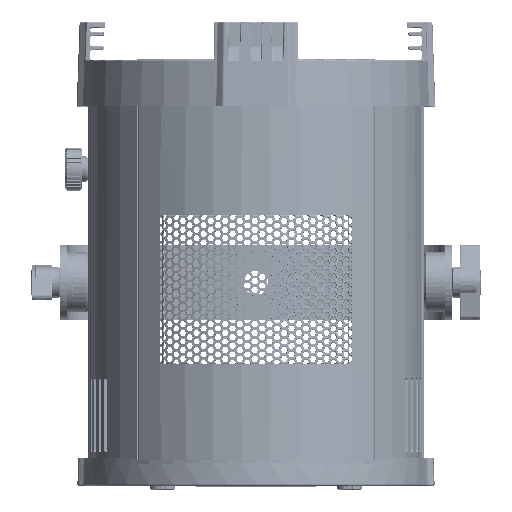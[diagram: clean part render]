
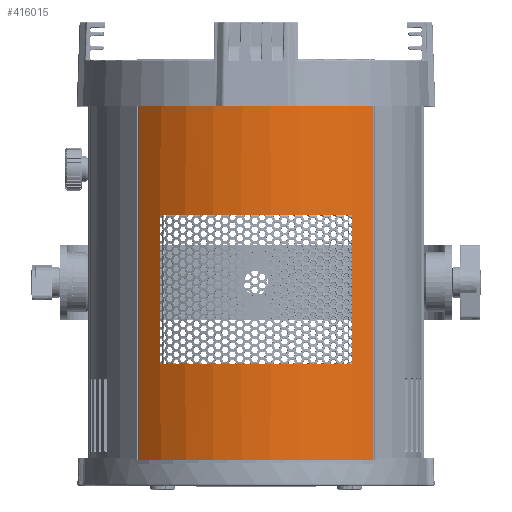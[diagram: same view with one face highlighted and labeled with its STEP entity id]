
A CAD part, top view. The second image highlights one B-rep face of the part: STEP entity #416015.
In plain terms, the highlighted cylindrical face has radius 90 mm (diameter 180 mm), a partial arc.
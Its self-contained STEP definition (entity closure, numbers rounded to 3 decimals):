
#10571 = DIRECTION ( 'NONE',  ( 0., 0., 1. ) ) ;
#10682 = DIRECTION ( 'NONE',  ( 0., -1., 0. ) ) ;
#11488 = AXIS2_PLACEMENT_3D ( 'NONE', #30434, #195487, #201860 ) ;
#13536 = DIRECTION ( 'NONE',  ( 0., -1., 0. ) ) ;
#20085 = VERTEX_POINT ( 'NONE', #281297 ) ;
#22964 = EDGE_CURVE ( 'NONE', #188798, #377891, #233063, .T. ) ;
#25962 = ORIENTED_EDGE ( 'NONE', *, *, #166094, .F. ) ;
#29279 = LINE ( 'NONE', #357342, #235605 ) ;
#30434 = CARTESIAN_POINT ( 'NONE',  ( 0., -65., 0. ) ) ;
#32751 = LINE ( 'NONE', #390976, #71839 ) ;
#44836 = ORIENTED_EDGE ( 'NONE', *, *, #241233, .T. ) ;
#45666 = CARTESIAN_POINT ( 'NONE',  ( -51.5, 66., -73.809 ) ) ;
#51361 = CARTESIAN_POINT ( 'NONE',  ( 0., 125., 0. ) ) ;
#58982 = EDGE_LOOP ( 'NONE', ( #236058, #44836, #25962, #118328 ) ) ;
#62298 = EDGE_CURVE ( 'NONE', #188798, #372526, #140049, .T. ) ;
#70005 = VECTOR ( 'NONE', #13536, 1000. ) ;
#71839 = VECTOR ( 'NONE', #10682, 1000. ) ;
#98160 = DIRECTION ( 'NONE',  ( 0., 1., 0. ) ) ;
#109630 = AXIS2_PLACEMENT_3D ( 'NONE', #147578, #214152, #286886 ) ;
#110128 = DIRECTION ( 'NONE',  ( 0., -1., 0. ) ) ;
#118328 = ORIENTED_EDGE ( 'NONE', *, *, #387715, .T. ) ;
#126133 = CARTESIAN_POINT ( 'NONE',  ( -62.697, -40., -64.569 ) ) ;
#129543 = ORIENTED_EDGE ( 'NONE', *, *, #413078, .F. ) ;
#137134 = CARTESIAN_POINT ( 'NONE',  ( 62.697, -65., -64.569 ) ) ;
#139156 = VERTEX_POINT ( 'NONE', #224008 ) ;
#140049 = LINE ( 'NONE', #45666, #70005 ) ;
#140748 = ORIENTED_EDGE ( 'NONE', *, *, #62298, .T. ) ;
#147578 = CARTESIAN_POINT ( 'NONE',  ( 0., 66., 0. ) ) ;
#159409 = EDGE_CURVE ( 'NONE', #372526, #20085, #323035, .T. ) ;
#161969 = VERTEX_POINT ( 'NONE', #137134 ) ;
#166094 = EDGE_CURVE ( 'NONE', #264021, #139156, #301476, .T. ) ;
#173479 = CARTESIAN_POINT ( 'NONE',  ( 0., -40., 0. ) ) ;
#188798 = VERTEX_POINT ( 'NONE', #384812 ) ;
#189320 = CIRCLE ( 'NONE', #11488, 90. ) ;
#194338 = DIRECTION ( 'NONE',  ( 0., -1., 0. ) ) ;
#194495 = VERTEX_POINT ( 'NONE', #317755 ) ;
#195487 = DIRECTION ( 'NONE',  ( 0., -1., 0. ) ) ;
#201860 = DIRECTION ( 'NONE',  ( 0., 0., 1. ) ) ;
#205742 = AXIS2_PLACEMENT_3D ( 'NONE', #51361, #285103, #418054 ) ;
#206767 = DIRECTION ( 'NONE',  ( 0., 0., -1. ) ) ;
#214152 = DIRECTION ( 'NONE',  ( 0., -1., 0. ) ) ;
#224008 = CARTESIAN_POINT ( 'NONE',  ( -62.697, 125., -64.569 ) ) ;
#228204 = AXIS2_PLACEMENT_3D ( 'NONE', #264707, #110128, #206767 ) ;
#233063 = CIRCLE ( 'NONE', #109630, 90. ) ;
#233671 = FACE_OUTER_BOUND ( 'NONE', #58982, .T. ) ;
#235605 = VECTOR ( 'NONE', #194338, 1000. ) ;
#236058 = ORIENTED_EDGE ( 'NONE', *, *, #338849, .F. ) ;
#237872 = CYLINDRICAL_SURFACE ( 'NONE', #412789, 90. ) ;
#241233 = EDGE_CURVE ( 'NONE', #194495, #139156, #420007, .T. ) ;
#264021 = VERTEX_POINT ( 'NONE', #353034 ) ;
#264707 = CARTESIAN_POINT ( 'NONE',  ( 0., -14., 0. ) ) ;
#281297 = CARTESIAN_POINT ( 'NONE',  ( 51.5, -14., -73.809 ) ) ;
#285103 = DIRECTION ( 'NONE',  ( 0., 1., 0. ) ) ;
#286886 = DIRECTION ( 'NONE',  ( 0., 0., -1. ) ) ;
#291884 = ORIENTED_EDGE ( 'NONE', *, *, #159409, .T. ) ;
#300090 = FACE_BOUND ( 'NONE', #414334, .T. ) ;
#301476 = CIRCLE ( 'NONE', #205742, 90. ) ;
#304295 = DIRECTION ( 'NONE',  ( 0., 1., 0. ) ) ;
#317755 = CARTESIAN_POINT ( 'NONE',  ( -62.697, -65., -64.569 ) ) ;
#318486 = VECTOR ( 'NONE', #98160, 1000. ) ;
#320080 = CARTESIAN_POINT ( 'NONE',  ( -51.5, -14., -73.809 ) ) ;
#323035 = CIRCLE ( 'NONE', #228204, 90. ) ;
#338849 = EDGE_CURVE ( 'NONE', #194495, #161969, #189320, .T. ) ;
#353034 = CARTESIAN_POINT ( 'NONE',  ( 62.697, 125., -64.569 ) ) ;
#357342 = CARTESIAN_POINT ( 'NONE',  ( 62.697, -40., -64.569 ) ) ;
#372526 = VERTEX_POINT ( 'NONE', #320080 ) ;
#377891 = VERTEX_POINT ( 'NONE', #378620 ) ;
#378620 = CARTESIAN_POINT ( 'NONE',  ( 51.5, 66., -73.809 ) ) ;
#384812 = CARTESIAN_POINT ( 'NONE',  ( -51.5, 66., -73.809 ) ) ;
#387715 = EDGE_CURVE ( 'NONE', #264021, #161969, #29279, .T. ) ;
#390976 = CARTESIAN_POINT ( 'NONE',  ( 51.5, 66., -73.809 ) ) ;
#400891 = ORIENTED_EDGE ( 'NONE', *, *, #22964, .F. ) ;
#412789 = AXIS2_PLACEMENT_3D ( 'NONE', #173479, #304295, #10571 ) ;
#413078 = EDGE_CURVE ( 'NONE', #377891, #20085, #32751, .T. ) ;
#414334 = EDGE_LOOP ( 'NONE', ( #400891, #140748, #291884, #129543 ) ) ;
#416015 = ADVANCED_FACE ( 'NONE', ( #300090, #233671 ), #237872, .T. ) ;
#418054 = DIRECTION ( 'NONE',  ( 0., 0., 1. ) ) ;
#420007 = LINE ( 'NONE', #126133, #318486 ) ;
